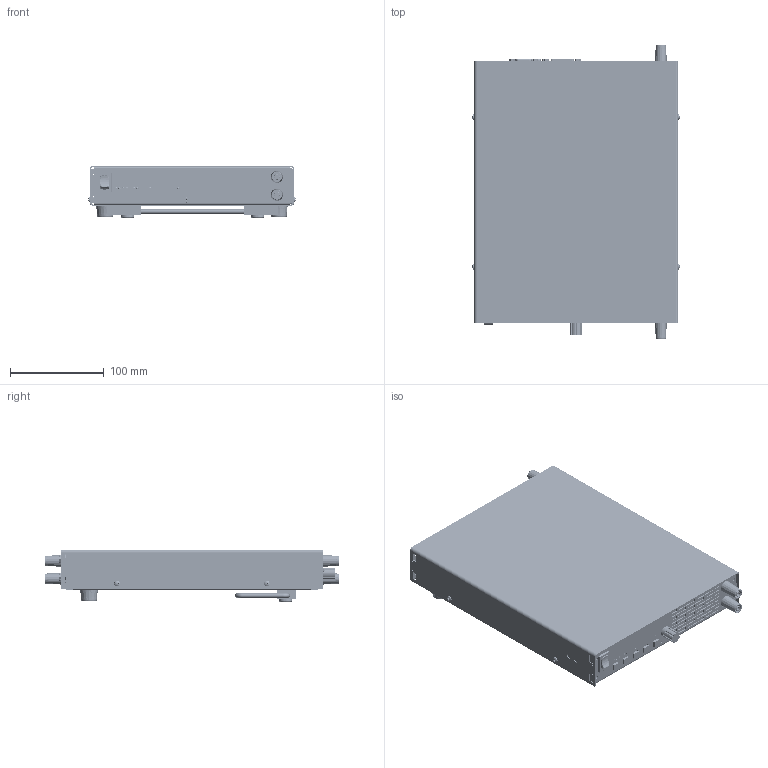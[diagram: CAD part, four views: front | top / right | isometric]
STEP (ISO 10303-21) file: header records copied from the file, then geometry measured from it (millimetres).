
FILE_DESCRIPTION(('STEP AP214'),'1');
FILE_NAME('PLA_M2_H19Z_1HE_SBU4_32_SBU4_32_3D_02_BAK.step','2024-08-20T12:27:07',(' '),(' '),'Spatial InterOp 3D',' ',' ');
FILE_SCHEMA(('AUTOMOTIVE_DESIGN { 1 0 10303 214 1 1 1 1 }'));
Length unit declared in the file: millimetre
Products named in the file (3): PLA_M2_H19Z_1HE_SBU4_32_SBU4_32_3D_02_BAK; 1708_PLA Bodenplatte_3D_03; AutoCreatedBlock_151
Assembly tree (2 placements, depth 2):
  PLA_M2_H19Z_1HE_SBU4_32_SBU4_32_3D_02_BAK
    1708_PLA Bodenplatte_3D_03
    AutoCreatedBlock_151
Bounding box: 221.56 x 313.6 x 55.75 mm (x, y, z)
Volume: 2293298.8 mm3; surface area: 540415.4 mm2
Topology: 83 solids, 86 shells, 6083 faces, 16275 edges, 10457 vertices
Faces by surface type: plane 2936, cylinder 1551, cone 1184, bspline 212, torus 190, sphere 8, extrusion 2
Entity records: 251532 total; most frequent: CARTESIAN_POINT 47518, DIRECTION 32263, ORIENTED_EDGE 32090, EDGE_CURVE 16045, AXIS2_PLACEMENT_3D 10968, VECTOR 10327, LINE 10325, VERTEX_POINT 10142
